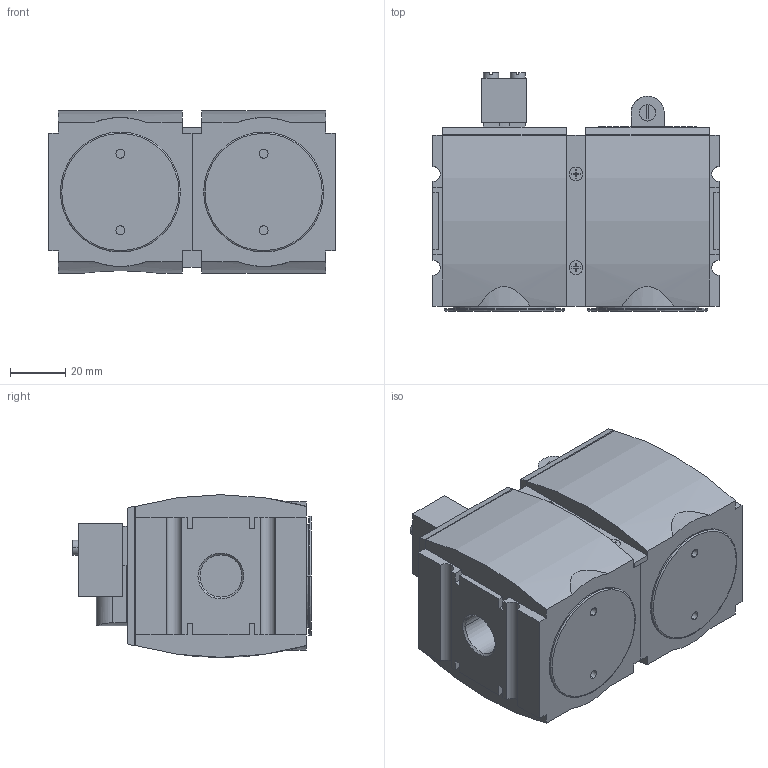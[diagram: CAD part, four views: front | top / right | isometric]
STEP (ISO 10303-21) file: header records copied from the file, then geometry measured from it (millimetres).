
FILE_DESCRIPTION((''),'2;1');
FILE_NAME('R412006281_ASM','2016-06-14T',('prr2cob'),(''),'PRO/ENGINEER BY PARAMETRIC TECHNOLOGY CORPORATION, 2012421','PRO/ENGINEER BY PARAMETRIC TECHNOLOGY CORPORATION, 2012421','');
FILE_SCHEMA(('CONFIG_CONTROL_DESIGN','SHAPE_APPEARANCE_LAYERS_GROUPS'));
Length unit declared in the file: millimetre
Products named in the file (4): R412006263; R412006371; R412006273; R412006281_ASM
Assembly tree (3 placements, depth 2):
  R412006281_ASM
    R412006263
    R412006371
    R412006273
Bounding box: 104 x 86.6 x 59 mm (x, y, z)
Volume: 362270.6 mm3; surface area: 57373 mm2
Topology: 3 solids, 9 shells, 343 faces, 854 edges, 560 vertices
Faces by surface type: plane 236, cylinder 87, cone 14, torus 6
Entity records: 10587 total; most frequent: CARTESIAN_POINT 2081, DIRECTION 1763, ORIENTED_EDGE 1708, EDGE_CURVE 854, VECTOR 631, LINE 631, AXIS2_PLACEMENT_3D 566, VERTEX_POINT 560
